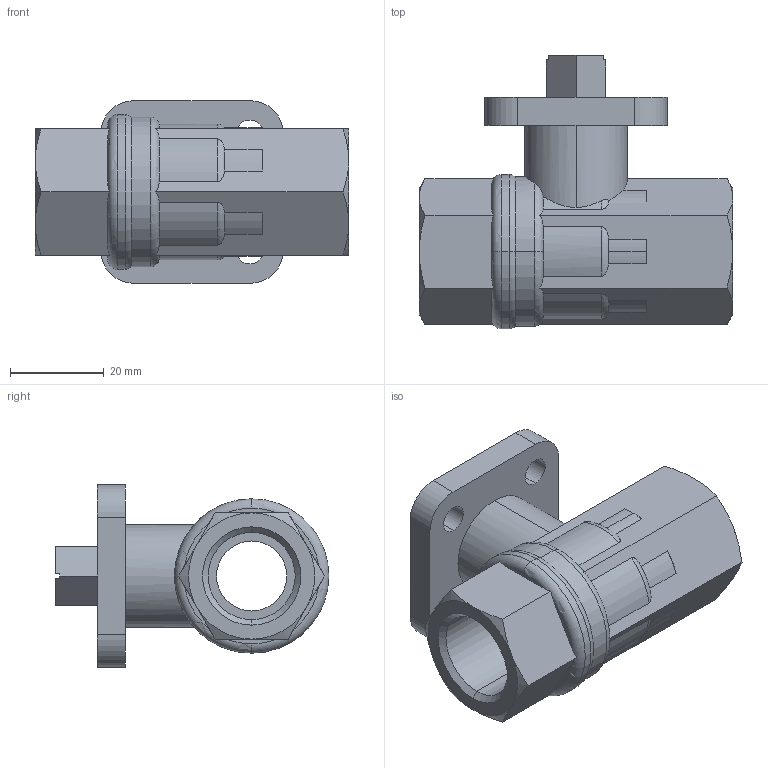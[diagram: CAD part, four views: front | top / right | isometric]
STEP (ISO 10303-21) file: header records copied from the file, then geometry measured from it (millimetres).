
FILE_DESCRIPTION (( 'STEP AP214' ), '1' );
FILE_NAME ('Ballvalve A25-DN15 G1_2.step', '2010-09-23T08:32:15', ( '' ), ( '' ), 'SwSTEP 2.0', 'SolidWorks 2010', '' );
FILE_SCHEMA (( 'AUTOMOTIVE_DESIGN' ));
Length unit declared in the file: millimetre
Products named in the file (1): Ballvalve A25-DN15 G1_2
Bounding box: 67 x 58.5 x 39 mm (x, y, z)
Volume: 41820.5 mm3; surface area: 15847.6 mm2
Topology: 1 solids, 1 shells, 114 faces, 295 edges, 188 vertices
Faces by surface type: plane 44, cylinder 40, cone 16, torus 14
Entity records: 3960 total; most frequent: CARTESIAN_POINT 1117, ORIENTED_EDGE 590, DIRECTION 568, EDGE_CURVE 295, AXIS2_PLACEMENT_3D 227, VERTEX_POINT 188, EDGE_LOOP 129, ADVANCED_FACE 114
